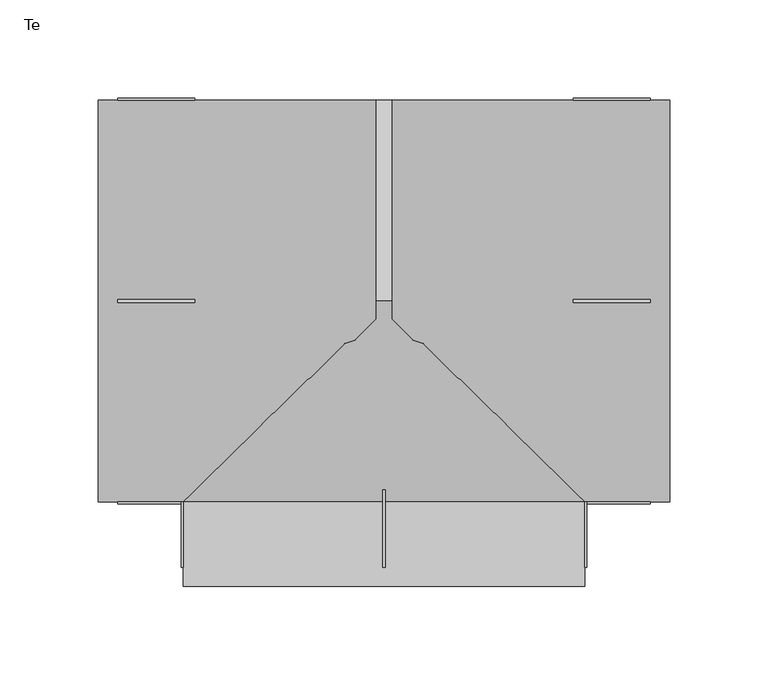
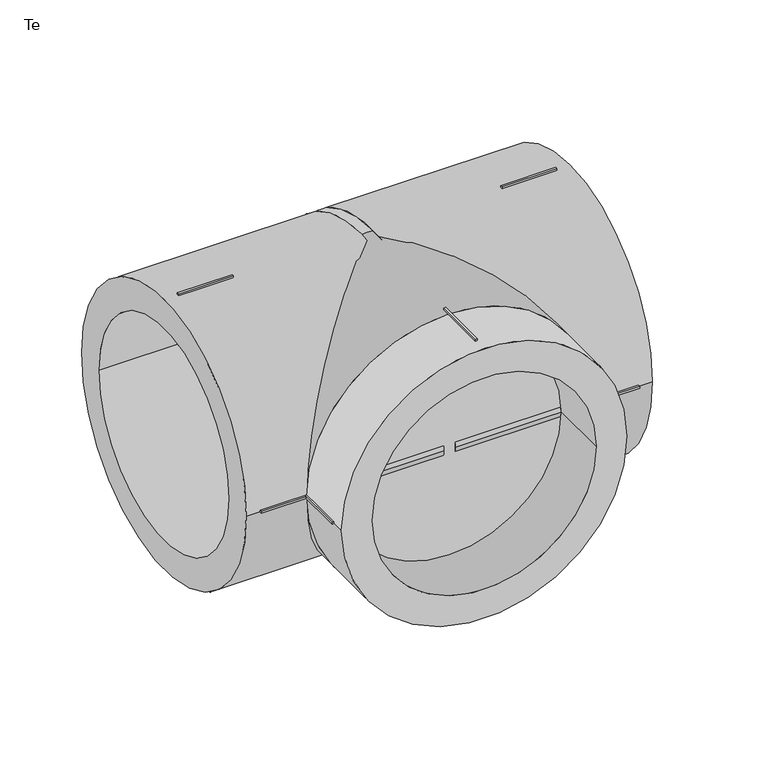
"""IFC4 building model written with IfcOpenShell, lengths in millimetres: pipe fitting geometry, EGB_VASEN_ PPR_Te WXR300_Te reducida WXR310 : Te."""

from ifc_helpers import new_model, si_unit, point, frame, origin, origin_2d, place, context, project, spatial, polyline, circle_curve, trimmed, segment, composite_curve, outline, extrude, source, transform, mapped, element, save


def te_3344769a(model_context):
    return source(origin(), model_context, "Body", "SweptSolid", [
        extrude(outline(polyline([(-0.75, -96.0), (0.75, -96.0), (0.75, -135.2), (-0.75, -135.2), (-0.75, -96.0)])), frame((0.0, 0.0, 101.0), z_axis=(0.0, 0.0, 1.0), x_axis=(1.0, 0.0, 0.0)), (0.0, 0.0, 1.0), 2.0),
        extrude(outline(polyline([(-0.75, -96.0), (0.75, -96.0), (0.75, -135.2), (-0.75, -135.2), (-0.75, -96.0)])), frame((0.0, 0.0, -103.0), z_axis=(0.0, 0.0, 1.0), x_axis=(1.0, 0.0, 0.0)), (0.0, 0.0, 1.0), 2.0),
        extrude(outline(polyline([(101.0, -96.0), (103.0, -96.0), (103.0, -135.2), (101.0, -135.2), (101.0, -96.0)])), frame((0.0, 0.0, -0.75), z_axis=(0.0, 0.0, 1.0), x_axis=(1.0, 0.0, 0.0)), (0.0, 0.0, 1.0), 1.5),
        extrude(outline(polyline([(-103.0, -96.0), (-101.0, -96.0), (-101.0, -135.2), (-103.0, -135.2), (-103.0, -96.0)])), frame((0.0, 0.0, -0.75), z_axis=(0.0, 0.0, 1.0), x_axis=(1.0, 0.0, 0.0)), (0.0, 0.0, 1.0), 1.5),
        extrude(outline(polyline([(96.0, -0.75), (96.0, 0.75), (135.2, 0.75), (135.2, -0.75), (96.0, -0.75)])), frame((0.0, 0.0, 101.0), z_axis=(0.0, 0.0, 1.0), x_axis=(1.0, 0.0, 0.0)), (0.0, 0.0, 1.0), 2.0),
        extrude(outline(polyline([(96.0, -0.75), (96.0, 0.75), (135.2, 0.75), (135.2, -0.75), (96.0, -0.75)])), frame((0.0, 0.0, -103.0), z_axis=(0.0, 0.0, 1.0), x_axis=(1.0, 0.0, 0.0)), (0.0, 0.0, 1.0), 2.0),
        extrude(outline(polyline([(96.0, 101.0), (96.0, 103.0), (135.2, 103.0), (135.2, 101.0), (96.0, 101.0)])), frame((0.0, 0.0, -0.75), z_axis=(0.0, 0.0, 1.0), x_axis=(1.0, 0.0, 0.0)), (0.0, 0.0, 1.0), 1.5),
        extrude(outline(polyline([(96.0, -103.0), (96.0, -101.0), (135.2, -101.0), (135.2, -103.0), (96.0, -103.0)])), frame((0.0, 0.0, -0.75), z_axis=(0.0, 0.0, 1.0), x_axis=(1.0, 0.0, 0.0)), (0.0, 0.0, 1.0), 1.5),
        extrude(outline(polyline([(-96.0, 0.75), (-96.0, -0.75), (-135.2, -0.75), (-135.2, 0.75), (-96.0, 0.75)])), frame((0.0, 0.0, 101.0), z_axis=(0.0, 0.0, 1.0), x_axis=(1.0, 0.0, 0.0)), (0.0, 0.0, 1.0), 2.0),
        extrude(outline(polyline([(-96.0, 0.75), (-96.0, -0.75), (-135.2, -0.75), (-135.2, 0.75), (-96.0, 0.75)])), frame((0.0, 0.0, -103.0), z_axis=(0.0, 0.0, 1.0), x_axis=(1.0, 0.0, 0.0)), (0.0, 0.0, 1.0), 2.0),
        extrude(outline(polyline([(-96.0, 103.0), (-96.0, 101.0), (-135.2, 101.0), (-135.2, 103.0), (-96.0, 103.0)])), frame((0.0, 0.0, -0.75), z_axis=(0.0, 0.0, 1.0), x_axis=(1.0, 0.0, 0.0)), (0.0, 0.0, 1.0), 1.5),
        extrude(outline(polyline([(-96.0, -101.0), (-96.0, -103.0), (-135.2, -103.0), (-135.2, -101.0), (-96.0, -101.0)])), frame((0.0, 0.0, -0.75), z_axis=(0.0, 0.0, 1.0), x_axis=(1.0, 0.0, 0.0)), (0.0, 0.0, 1.0), 1.5),
        extrude(outline(composite_curve([segment(trimmed(circle_curve(origin_2d(), 102.0), [point((0.0, 102.0))], [point((0.0, -102.0))], False, "CARTESIAN"), True, "CONTINUOUS"), segment(trimmed(circle_curve(origin_2d(), 102.0), [point((0.0, -102.0))], [point((0.0, 102.0))], False, "CARTESIAN"), True, "CONTINUOUS")], self_intersect=False), holes=[composite_curve([segment(trimmed(circle_curve(origin_2d(), 80.0), [point((0.0, 80.0))], [point((0.0, -80.0))], True, "CARTESIAN"), True, "CONTINUOUS"), segment(trimmed(circle_curve(origin_2d(), 80.0), [point((0.0, -80.0))], [point((0.0, 80.0))], True, "CARTESIAN"), True, "CONTINUOUS")], self_intersect=False)]), frame((0.0, -145.0, 0.0), z_axis=(0.0, 1.0, 0.0), x_axis=(0.0, 0.0, 1.0)), (0.0, 0.0, 1.0), 43.0),
        extrude(outline(composite_curve([segment(trimmed(circle_curve(origin_2d(), 102.0), [point((-102.0, 0.0))], [point((102.0, 0.0))], False, "CARTESIAN"), True, "CONTINUOUS"), segment(trimmed(circle_curve(origin_2d(), 102.0), [point((102.0, 0.0))], [point((-102.0, 0.0))], False, "CARTESIAN"), True, "CONTINUOUS")], self_intersect=False), holes=[composite_curve([segment(trimmed(circle_curve(origin_2d(), 80.0), [point((-80.0, 0.0))], [point((80.0, 0.0))], True, "CARTESIAN"), True, "CONTINUOUS"), segment(trimmed(circle_curve(origin_2d(), 80.0), [point((80.0, 0.0))], [point((-80.0, 0.0))], True, "CARTESIAN"), True, "CONTINUOUS")], self_intersect=False)]), frame((4.08, 0.0, 0.0), z_axis=(1.0, 0.0, 0.0), x_axis=(0.0, 1.0, 0.0)), (0.0, 0.0, 1.0), 140.92),
        extrude(outline(composite_curve([segment(trimmed(circle_curve(origin_2d(), 102.0), [point((-102.0, 0.0))], [point((102.0, 0.0))], False, "CARTESIAN"), True, "CONTINUOUS"), segment(trimmed(circle_curve(origin_2d(), 102.0), [point((102.0, 0.0))], [point((-102.0, 0.0))], False, "CARTESIAN"), True, "CONTINUOUS")], self_intersect=False), holes=[composite_curve([segment(trimmed(circle_curve(origin_2d(), 80.0), [point((-80.0, 0.0))], [point((80.0, 0.0))], True, "CARTESIAN"), True, "CONTINUOUS"), segment(trimmed(circle_curve(origin_2d(), 80.0), [point((80.0, 0.0))], [point((-80.0, 0.0))], True, "CARTESIAN"), True, "CONTINUOUS")], self_intersect=False)]), frame((-145.0, 0.0, 0.0), z_axis=(1.0, 0.0, 0.0), x_axis=(0.0, 1.0, 0.0)), (0.0, 0.0, 1.0), 140.92),
        extrude(outline(composite_curve([segment(trimmed(circle_curve(origin_2d(), 102.0), [point((0.0, 102.0))], [point((0.0, -102.0))], False, "CARTESIAN"), True, "CONTINUOUS"), segment(trimmed(circle_curve(origin_2d(), 102.0), [point((0.0, -102.0))], [point((0.0, 102.0))], False, "CARTESIAN"), True, "CONTINUOUS")], self_intersect=False)), frame((0.0, -102.0, 0.0), z_axis=(0.0, 1.0, 0.0), x_axis=(0.0, 0.0, 1.0)), (0.0, 0.0, 1.0), 102.0),
        extrude(outline(composite_curve([segment(trimmed(circle_curve(origin_2d(), 102.0), [point((-102.0, 0.0))], [point((102.0, 0.0))], False, "CARTESIAN"), True, "CONTINUOUS"), segment(trimmed(circle_curve(origin_2d(), 102.0), [point((102.0, 0.0))], [point((-102.0, 0.0))], False, "CARTESIAN"), True, "CONTINUOUS")], self_intersect=False)), frame((-4.08, 0.0, 0.0), z_axis=(1.0, 0.0, 0.0), x_axis=(0.0, 1.0, 0.0)), (0.0, 0.0, 1.0), 8.16),
    ])


if __name__ == "__main__":
    model = new_model("IFC4")
    model_context = context("Model", 3, world=origin())
    ifc_project = project(units=[si_unit("LENGTHUNIT", "METRE", prefix="MILLI")], contexts=[model_context])
    site = spatial("IfcSite", under=ifc_project)
    building = spatial("IfcBuilding", under=site)
    placement = place(None, origin())
    te_shape = te_3344769a(model_context)
    element("IfcPipeFitting", 1, ObjectType="EGB_VASEN_ PPR_Te WXR300_Te reducida WXR310 : Te", at=placement, inside=building, context=model_context, shape_type="MappedRepresentation", body=[
        mapped(te_shape, transform((0.0, 0.0, 0.0), x_axis=(1.0, 0.0, 0.0), y_axis=(0.0, 1.0, 0.0), z_axis=(0.0, 0.0, 1.0))),
    ])
    save(model, "model.ifc")
